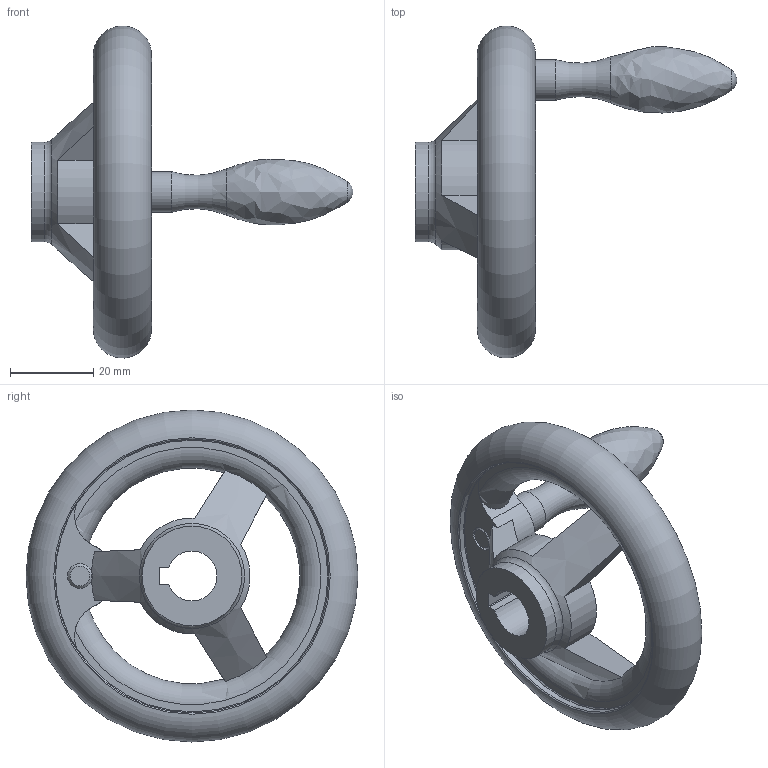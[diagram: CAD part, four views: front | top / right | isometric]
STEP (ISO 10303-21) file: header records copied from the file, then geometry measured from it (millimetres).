
FILE_DESCRIPTION( ( 'STEP AP203' ), '1' );
FILE_NAME( 'C:/Temp/Ganter_Step_05_03_2020/data/1_3/din_950/din_950_k/din_950_k_f/Handwheel DIN 950-GG-80-K12-F.stp', '2020-03-05T10:31:09', ( 'License CC BY-ND 4.0' ), ( 'CADENAS' ), ' ', 'PARTsolutions', ' ' );
FILE_SCHEMA( ( 'CONFIG_CONTROL_DESIGN' ) );
Length unit declared in the file: millimetre
Products named in the file (1): _Handwheel DIN 950-GG-80-K12-F
Bounding box: 77.5 x 79.98 x 79.98 mm (x, y, z)
Volume: 44818.5 mm3; surface area: 15648.1 mm2
Topology: 1 solids, 1 shells, 48 faces, 138 edges, 88 vertices
Faces by surface type: plane 17, cylinder 15, torus 11, cone 3, sphere 1, bspline 1
Full cylindrical faces by diameter (mm): 6 x1, 9.8 x1, 24 x2, 66 x2
Entity records: 1747 total; most frequent: CARTESIAN_POINT 566, DIRECTION 236, ORIENTED_EDGE 222, EDGE_CURVE 111, AXIS2_PLACEMENT_3D 106, VERTEX_POINT 82, EDGE_LOOP 71, FACE_OUTER_BOUND 63
